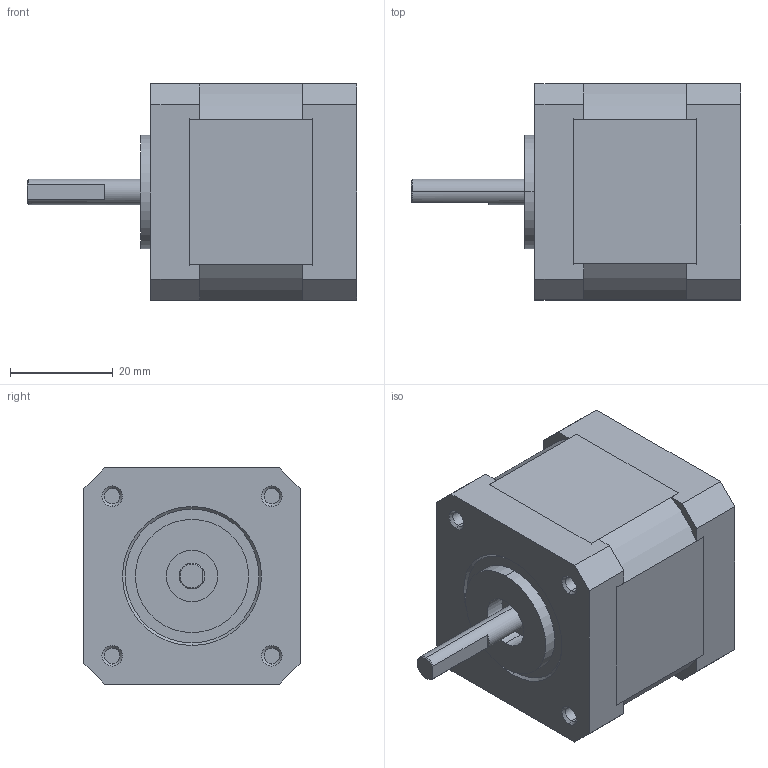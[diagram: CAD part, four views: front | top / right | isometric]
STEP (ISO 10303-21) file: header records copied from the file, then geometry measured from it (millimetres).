
FILE_DESCRIPTION (( 'STEP AP203' ), '1' );
FILE_NAME ('42J1840-408-01.STEP', '2022-06-25T08:21:53', ( 'USER-' ), ( 'MS' ), 'SwSTEP 2.0', 'SolidWorks 2018', '' );
FILE_SCHEMA (( 'CONFIG_CONTROL_DESIGN' ));
Length unit declared in the file: millimetre
Products named in the file (4): 42-25____^42J1825-404-01(2)_42J1825-404-01; 42-25____-0^42J1825-404-01(2)_42J1825-404-01; 42-25____4_1^42J1825-404-01(2)_42J1825-404-01; 42J1840-408-01
Assembly tree (3 placements, depth 2):
  42J1840-408-01
    42-25____^42J1825-404-01(2)_42J1825-404-01
    42-25____-0^42J1825-404-01(2)_42J1825-404-01
    42-25____4_1^42J1825-404-01(2)_42J1825-404-01
Bounding box: 64 x 42 x 42 mm (x, y, z)
Volume: 68545.2 mm3; surface area: 18267.4 mm2
Topology: 3 solids, 3 shells, 209 faces, 529 edges, 344 vertices
Faces by surface type: plane 118, cylinder 62, bspline 16, cone 13
Entity records: 7000 total; most frequent: CARTESIAN_POINT 1654, ORIENTED_EDGE 1058, DIRECTION 1002, EDGE_CURVE 529, AXIS2_PLACEMENT_3D 356, VERTEX_POINT 344, VECTOR 290, LINE 290
